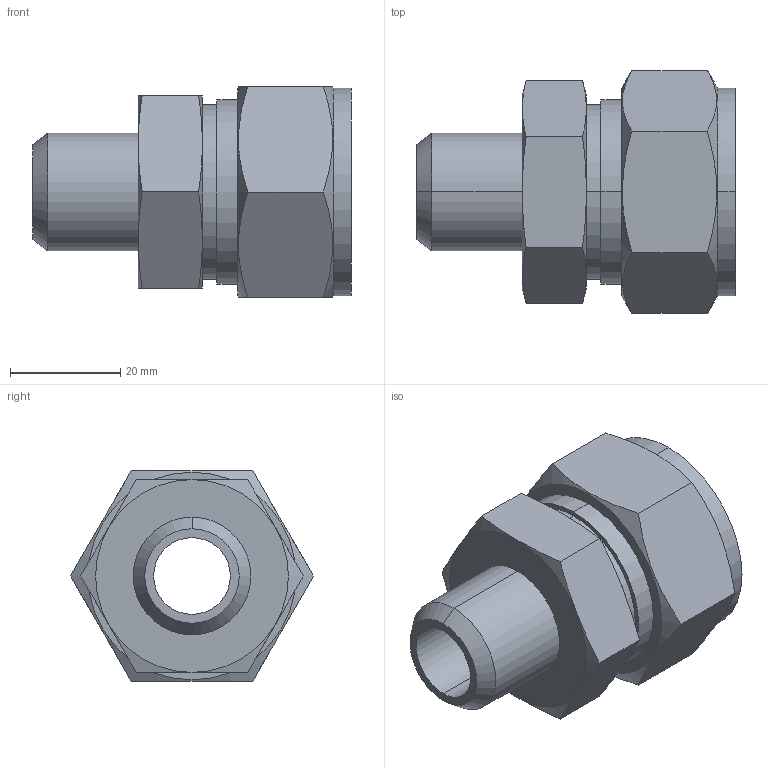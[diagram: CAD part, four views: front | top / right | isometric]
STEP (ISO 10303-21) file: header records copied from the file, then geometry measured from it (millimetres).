
FILE_DESCRIPTION (( 'STEP AP203' ), '1' );
FILE_NAME ('DCB16-08 SS.STEP', '2009-09-08T04:47:52', ( ' ' ), ( '' ), 'SwSTEP 2.0', 'SolidWorks 2008', '' );
FILE_SCHEMA (( 'CONFIG_CONTROL_DESIGN' ));
Length unit declared in the file: millimetre
Products named in the file (1): DCB16-08 SS
Bounding box: 57.7 x 43.99 x 38.1 mm (x, y, z)
Volume: 28619.8 mm3; surface area: 12137.8 mm2
Topology: 1 solids, 1 shells, 53 faces, 118 edges, 72 vertices
Faces by surface type: cone 20, plane 19, cylinder 14
Entity records: 1745 total; most frequent: CARTESIAN_POINT 532, ORIENTED_EDGE 236, DIRECTION 230, EDGE_CURVE 118, AXIS2_PLACEMENT_3D 98, VERTEX_POINT 72, EDGE_LOOP 60, ADVANCED_FACE 53
